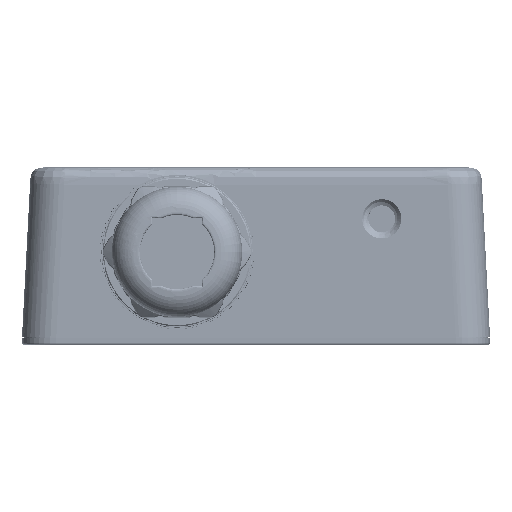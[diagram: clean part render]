
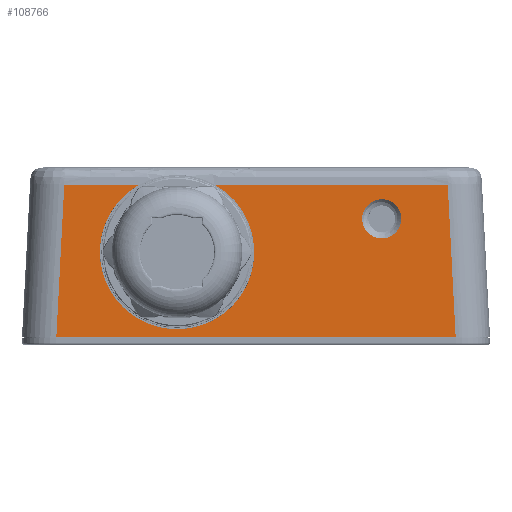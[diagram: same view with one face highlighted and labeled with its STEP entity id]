
A CAD part, front view. The second image highlights one B-rep face of the part: STEP entity #108766.
In plain terms, the highlighted planar face has unit normal (0, -1, 0).
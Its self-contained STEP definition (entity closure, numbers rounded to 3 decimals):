
#22975=FACE_BOUND('',#145727,.T.);
#22976=FACE_BOUND('',#145728,.T.);
#24048=PLANE('',#337900);
#41643=LINE('',#448731,#75194);
#41682=LINE('',#448862,#75233);
#41732=LINE('',#449430,#75283);
#75194=VECTOR('',#363167,1.);
#75233=VECTOR('',#363246,1.);
#75283=VECTOR('',#363366,1.);
#108766=ADVANCED_FACE('',(#22975,#22976),#24048,.F.);
#145727=EDGE_LOOP('',(#175187,#175188,#175189,#175190,#175191,#175192));
#145728=EDGE_LOOP('',(#175193,#175194));
#165013=B_SPLINE_CURVE_WITH_KNOTS('',3,(#449750,#449751,#449752,#449753),
 .UNSPECIFIED.,.F.,.F.,(4,4),(0.,1.),.UNSPECIFIED.);
#165014=B_SPLINE_CURVE_WITH_KNOTS('',3,(#449754,#449755,#449756,#449757),
 .UNSPECIFIED.,.F.,.F.,(4,4),(0.,1.),.UNSPECIFIED.);
#167744=CIRCLE('',#337833,13.5);
#167745=CIRCLE('',#337898,3.429);
#167746=CIRCLE('',#337899,3.429);
#175187=ORIENTED_EDGE('',*,*,#292946,.F.);
#175188=ORIENTED_EDGE('',*,*,#293183,.T.);
#175189=ORIENTED_EDGE('',*,*,#293115,.T.);
#175190=ORIENTED_EDGE('',*,*,#292936,.F.);
#175191=ORIENTED_EDGE('',*,*,#292986,.T.);
#175192=ORIENTED_EDGE('',*,*,#293184,.T.);
#175193=ORIENTED_EDGE('',*,*,#293185,.F.);
#175194=ORIENTED_EDGE('',*,*,#293186,.F.);
#263930=VERTEX_POINT('',#448732);
#263931=VERTEX_POINT('',#448733);
#263940=VERTEX_POINT('',#448754);
#263941=VERTEX_POINT('',#448755);
#263979=VERTEX_POINT('',#448861);
#264104=VERTEX_POINT('',#449431);
#264170=VERTEX_POINT('',#449759);
#264171=VERTEX_POINT('',#449760);
#292936=EDGE_CURVE('',#263930,#263931,#41643,.T.);
#292946=EDGE_CURVE('',#263940,#263941,#167744,.T.);
#292986=EDGE_CURVE('',#263930,#263979,#41682,.T.);
#293115=EDGE_CURVE('',#264104,#263931,#41732,.T.);
#293183=EDGE_CURVE('',#263940,#264104,#165013,.T.);
#293184=EDGE_CURVE('',#263979,#263941,#165014,.T.);
#293185=EDGE_CURVE('',#264170,#264171,#167745,.T.);
#293186=EDGE_CURVE('',#264171,#264170,#167746,.T.);
#337833=AXIS2_PLACEMENT_3D('',#448753,#363187,#363188);
#337898=AXIS2_PLACEMENT_3D('',#449758,#363428,#363429);
#337899=AXIS2_PLACEMENT_3D('',#449761,#363430,#363431);
#337900=AXIS2_PLACEMENT_3D('',#449762,#363432,#363433);
#363167=DIRECTION('',(-1.,0.,0.));
#363187=DIRECTION('',(0.,-1.,0.));
#363188=DIRECTION('',(0.,0.,1.));
#363246=DIRECTION('',(-0.052,0.,0.999));
#363366=DIRECTION('',(-0.052,0.,-0.999));
#363428=DIRECTION('',(0.,-1.,0.));
#363429=DIRECTION('',(1.,0.,0.));
#363430=DIRECTION('',(0.,-1.,0.));
#363431=DIRECTION('',(1.,0.,0.));
#363432=DIRECTION('',(0.,1.,0.));
#363433=DIRECTION('',(1.,0.,0.));
#448731=CARTESIAN_POINT('',(30.,-10.927,-8.6));
#448732=CARTESIAN_POINT('',(64.918,-10.927,-8.6));
#448733=CARTESIAN_POINT('',(-4.918,-10.927,-8.6));
#448753=CARTESIAN_POINT('',(16.19,-10.927,6.2));
#448754=CARTESIAN_POINT('',(9.632,-10.927,18.));
#448755=CARTESIAN_POINT('',(22.748,-10.927,18.));
#448861=CARTESIAN_POINT('',(63.524,-10.927,18.));
#448862=CARTESIAN_POINT('',(64.823,-10.927,-6.775));
#449430=CARTESIAN_POINT('',(-4.823,-10.927,-6.775));
#449431=CARTESIAN_POINT('',(-3.524,-10.927,18.));
#449750=CARTESIAN_POINT('',(9.632,-10.927,18.));
#449751=CARTESIAN_POINT('',(5.246,-10.927,18.));
#449752=CARTESIAN_POINT('',(0.861,-10.927,18.));
#449753=CARTESIAN_POINT('',(-3.524,-10.927,18.));
#449754=CARTESIAN_POINT('',(63.524,-10.927,18.));
#449755=CARTESIAN_POINT('',(49.932,-10.927,18.));
#449756=CARTESIAN_POINT('',(36.34,-10.927,18.));
#449757=CARTESIAN_POINT('',(22.748,-10.927,18.));
#449758=CARTESIAN_POINT('',(52.,-10.927,12.));
#449759=CARTESIAN_POINT('',(55.429,-10.927,12.));
#449760=CARTESIAN_POINT('',(48.571,-10.927,12.));
#449761=CARTESIAN_POINT('',(52.,-10.927,12.));
#449762=CARTESIAN_POINT('',(58.35,-10.927,15.666));
